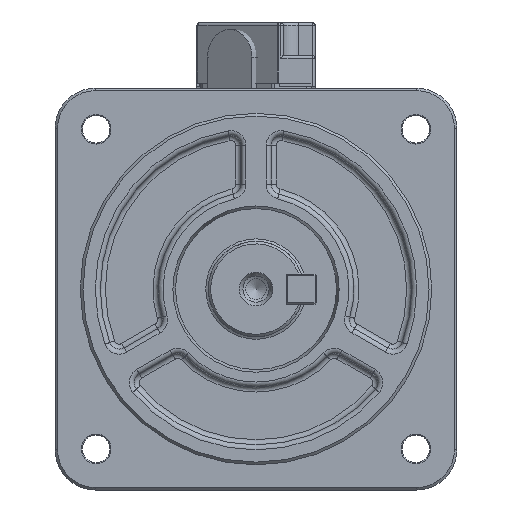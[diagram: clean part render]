
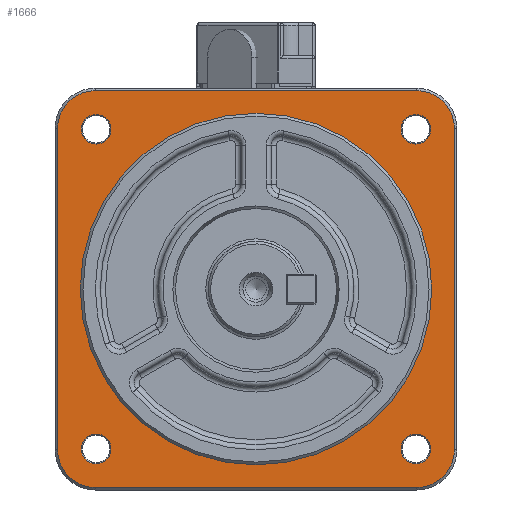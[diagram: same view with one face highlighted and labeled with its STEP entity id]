
A CAD part, left-side view. The second image highlights one B-rep face of the part: STEP entity #1666.
In plain terms, the highlighted planar face has unit normal (-1, 0, 0).
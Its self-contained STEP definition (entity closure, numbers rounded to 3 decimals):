
#1666 = ADVANCED_FACE( '', ( #3789, #3790, #3791, #3792, #3793, #3794 ), #3795, .F. );
#3789 = FACE_OUTER_BOUND( '', #6878, .T. );
#3790 = FACE_BOUND( '', #6879, .T. );
#3791 = FACE_BOUND( '', #6880, .T. );
#3792 = FACE_BOUND( '', #6881, .T. );
#3793 = FACE_BOUND( '', #6882, .T. );
#3794 = FACE_BOUND( '', #6883, .T. );
#3795 = PLANE( '', #6884 );
#6878 = EDGE_LOOP( '', ( #12206, #12207, #12208, #12209, #12210, #12211, #12212, #12213 ) );
#6879 = EDGE_LOOP( '', ( #12214 ) );
#6880 = EDGE_LOOP( '', ( #12215 ) );
#6881 = EDGE_LOOP( '', ( #12216 ) );
#6882 = EDGE_LOOP( '', ( #12217 ) );
#6883 = EDGE_LOOP( '', ( #12218 ) );
#6884 = AXIS2_PLACEMENT_3D( '', #12219, #12220, #12221 );
#12206 = ORIENTED_EDGE( '', *, *, #18566, .T. );
#12207 = ORIENTED_EDGE( '', *, *, #17766, .T. );
#12208 = ORIENTED_EDGE( '', *, *, #18567, .T. );
#12209 = ORIENTED_EDGE( '', *, *, #18568, .T. );
#12210 = ORIENTED_EDGE( '', *, *, #18569, .T. );
#12211 = ORIENTED_EDGE( '', *, *, #18570, .T. );
#12212 = ORIENTED_EDGE( '', *, *, #18194, .T. );
#12213 = ORIENTED_EDGE( '', *, *, #18571, .T. );
#12214 = ORIENTED_EDGE( '', *, *, #18572, .T. );
#12215 = ORIENTED_EDGE( '', *, *, #18573, .T. );
#12216 = ORIENTED_EDGE( '', *, *, #18574, .T. );
#12217 = ORIENTED_EDGE( '', *, *, #18575, .T. );
#12218 = ORIENTED_EDGE( '', *, *, #18576, .T. );
#12219 = CARTESIAN_POINT( '', ( 3., 0., 0. ) );
#12220 = DIRECTION( '', ( 1., 0., 0. ) );
#12221 = DIRECTION( '', ( 0., 1., 0. ) );
#17766 = EDGE_CURVE( '', #21210, #21211, #21212, .F. );
#18194 = EDGE_CURVE( '', #21919, #21920, #21921, .F. );
#18566 = EDGE_CURVE( '', #22474, #21210, #22475, .F. );
#18567 = EDGE_CURVE( '', #21211, #22476, #22477, .F. );
#18568 = EDGE_CURVE( '', #22476, #22478, #22479, .F. );
#18569 = EDGE_CURVE( '', #22478, #22480, #22481, .F. );
#18570 = EDGE_CURVE( '', #22480, #21919, #22482, .F. );
#18571 = EDGE_CURVE( '', #21920, #22474, #22483, .F. );
#18572 = EDGE_CURVE( '', #22484, #22484, #22485, .T. );
#18573 = EDGE_CURVE( '', #22486, #22486, #22487, .T. );
#18574 = EDGE_CURVE( '', #22488, #22488, #22489, .T. );
#18575 = EDGE_CURVE( '', #22490, #22490, #22491, .T. );
#18576 = EDGE_CURVE( '', #22492, #22492, #22493, .T. );
#21210 = VERTEX_POINT( '', #27564 );
#21211 = VERTEX_POINT( '', #27565 );
#21212 = CIRCLE( '', #27566, 7.5 );
#21919 = VERTEX_POINT( '', #28782 );
#21920 = VERTEX_POINT( '', #28783 );
#21921 = LINE( '', #28784, #28785 );
#22474 = VERTEX_POINT( '', #29851 );
#22475 = LINE( '', #29852, #29853 );
#22476 = VERTEX_POINT( '', #29854 );
#22477 = LINE( '', #29855, #29856 );
#22478 = VERTEX_POINT( '', #29857 );
#22479 = CIRCLE( '', #29858, 7.5 );
#22480 = VERTEX_POINT( '', #29859 );
#22481 = LINE( '', #29860, #29861 );
#22482 = CIRCLE( '', #29862, 7.5 );
#22483 = CIRCLE( '', #29863, 7.5 );
#22484 = VERTEX_POINT( '', #29864 );
#22485 = CIRCLE( '', #29865, 2.95 );
#22486 = VERTEX_POINT( '', #29866 );
#22487 = CIRCLE( '', #29867, 2.95 );
#22488 = VERTEX_POINT( '', #29868 );
#22489 = CIRCLE( '', #29869, 2.95 );
#22490 = VERTEX_POINT( '', #29870 );
#22491 = CIRCLE( '', #29871, 2.95 );
#22492 = VERTEX_POINT( '', #29872 );
#22493 = CIRCLE( '', #29873, 35. );
#27564 = CARTESIAN_POINT( '', ( 3., -39.5, 32. ) );
#27565 = CARTESIAN_POINT( '', ( 3., -32., 39.5 ) );
#27566 = AXIS2_PLACEMENT_3D( '', #35107, #35108, #35109 );
#28782 = CARTESIAN_POINT( '', ( 3., 32., -39.5 ) );
#28783 = CARTESIAN_POINT( '', ( 3., -32., -39.5 ) );
#28784 = CARTESIAN_POINT( '', ( 3., -32., -39.5 ) );
#28785 = VECTOR( '', #35704, 1000. );
#29851 = CARTESIAN_POINT( '', ( 3., -39.5, -32. ) );
#29852 = CARTESIAN_POINT( '', ( 3., -39.5, 32. ) );
#29853 = VECTOR( '', #36202, 1000. );
#29854 = CARTESIAN_POINT( '', ( 3., 32., 39.5 ) );
#29855 = CARTESIAN_POINT( '', ( 3., 32., 39.5 ) );
#29856 = VECTOR( '', #36203, 1000. );
#29857 = CARTESIAN_POINT( '', ( 3., 39.5, 32. ) );
#29858 = AXIS2_PLACEMENT_3D( '', #36204, #36205, #36206 );
#29859 = CARTESIAN_POINT( '', ( 3., 39.5, -32. ) );
#29860 = CARTESIAN_POINT( '', ( 3., 39.5, -32. ) );
#29861 = VECTOR( '', #36207, 1000. );
#29862 = AXIS2_PLACEMENT_3D( '', #36208, #36209, #36210 );
#29863 = AXIS2_PLACEMENT_3D( '', #36211, #36212, #36213 );
#29864 = CARTESIAN_POINT( '', ( 3., -28.87, -31.82 ) );
#29865 = AXIS2_PLACEMENT_3D( '', #36214, #36215, #36216 );
#29866 = CARTESIAN_POINT( '', ( 3., 34.77, -31.82 ) );
#29867 = AXIS2_PLACEMENT_3D( '', #36217, #36218, #36219 );
#29868 = CARTESIAN_POINT( '', ( 3., 34.77, 31.82 ) );
#29869 = AXIS2_PLACEMENT_3D( '', #36220, #36221, #36222 );
#29870 = CARTESIAN_POINT( '', ( 3., -28.87, 31.82 ) );
#29871 = AXIS2_PLACEMENT_3D( '', #36223, #36224, #36225 );
#29872 = CARTESIAN_POINT( '', ( 3., 0., 35. ) );
#29873 = AXIS2_PLACEMENT_3D( '', #36226, #36227, #36228 );
#35107 = CARTESIAN_POINT( '', ( 3., -32., 32. ) );
#35108 = DIRECTION( '', ( 1., 0., 0. ) );
#35109 = DIRECTION( '', ( 0., 1., 0. ) );
#35704 = DIRECTION( '', ( 0., 1., 0. ) );
#36202 = DIRECTION( '', ( 0., 0., -1. ) );
#36203 = DIRECTION( '', ( 0., -1., 0. ) );
#36204 = CARTESIAN_POINT( '', ( 3., 32., 32. ) );
#36205 = DIRECTION( '', ( 1., 0., 0. ) );
#36206 = DIRECTION( '', ( 0., 1., 0. ) );
#36207 = DIRECTION( '', ( 0., 0., 1. ) );
#36208 = CARTESIAN_POINT( '', ( 3., 32., -32. ) );
#36209 = DIRECTION( '', ( 1., 0., 0. ) );
#36210 = DIRECTION( '', ( 0., 1., 0. ) );
#36211 = CARTESIAN_POINT( '', ( 3., -32., -32. ) );
#36212 = DIRECTION( '', ( 1., 0., 0. ) );
#36213 = DIRECTION( '', ( 0., 1., 0. ) );
#36214 = CARTESIAN_POINT( '', ( 3., -31.82, -31.82 ) );
#36215 = DIRECTION( '', ( 1., 0., 0. ) );
#36216 = DIRECTION( '', ( 0., 1., 0. ) );
#36217 = CARTESIAN_POINT( '', ( 3., 31.82, -31.82 ) );
#36218 = DIRECTION( '', ( 1., 0., 0. ) );
#36219 = DIRECTION( '', ( 0., 1., 0. ) );
#36220 = CARTESIAN_POINT( '', ( 3., 31.82, 31.82 ) );
#36221 = DIRECTION( '', ( 1., 0., 0. ) );
#36222 = DIRECTION( '', ( 0., 1., 0. ) );
#36223 = CARTESIAN_POINT( '', ( 3., -31.82, 31.82 ) );
#36224 = DIRECTION( '', ( 1., 0., 0. ) );
#36225 = DIRECTION( '', ( 0., 1., 0. ) );
#36226 = CARTESIAN_POINT( '', ( 3., 0., 0. ) );
#36227 = DIRECTION( '', ( 1., 0., 0. ) );
#36228 = DIRECTION( '', ( 0., 0., 1. ) );
